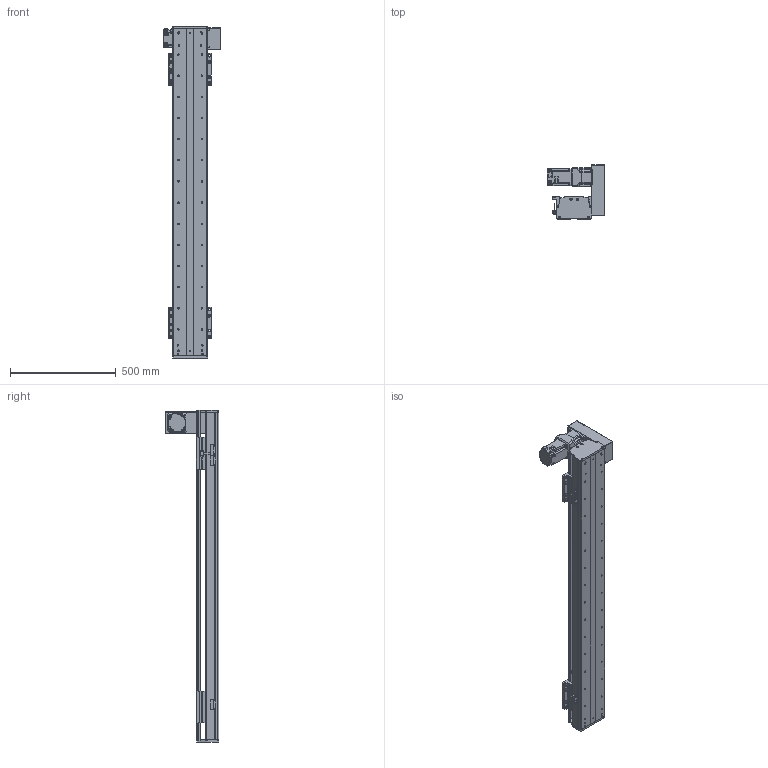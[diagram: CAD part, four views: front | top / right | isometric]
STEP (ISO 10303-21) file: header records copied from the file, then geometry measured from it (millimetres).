
FILE_DESCRIPTION(/* description */ (''),/* implementation_level */ '2;1');
FILE_NAME(/* name */ 'C:\Users\PC\Desktop\3D도면\STEP\새 폴더\DSB165-UR7G-W1200-L.stp',/* time_stamp */ '2018-06-25T15:18:22+09:00',/* author */ ('PC'),/* organization */ (''),/* preprocessor_version */ 'ST-DEVELOPER v16.5',/* originating_system */ 'Autodesk Inventor 2017',/* authorisation */ '');
FILE_SCHEMA (('AUTOMOTIVE_DESIGN { 1 0 10303 214 3 1 1 }'));
Length unit declared in the file: millimetre
Products named in the file (12): DSB165-UL7G-W1200-R_MIR; DSB165-BASE-L_MIR; hg-kr73__MIR; ab0901-p0401300102_MIR; 11-DSB165 BELT COVER_MIR; 12-DSB165-REAR COVER_MIR; 14-DSB165-FRONT COVER_MIR; DSB165-UP COVER_MIR; DSR165-SENSOR DOG_MIR; pm-y65_step_MIR; SENSOR BRACKET(EE-SX674A)_MIR; DSB165-TABLE(MSB20S)_MIR
Assembly tree (16 placements, depth 2):
  DSB165-UL7G-W1200-R_MIR
    DSB165-BASE-L_MIR
    hg-kr73__MIR
    ab0901-p0401300102_MIR
    11-DSB165 BELT COVER_MIR
    12-DSB165-REAR COVER_MIR
    14-DSB165-FRONT COVER_MIR
    DSB165-UP COVER_MIR
    DSR165-SENSOR DOG_MIR
    pm-y65_step_MIR  x3
    SENSOR BRACKET(EE-SX674A)_MIR  x3
    DSB165-TABLE(MSB20S)_MIR  x2
Bounding box: 270 x 254 x 1570 mm (x, y, z)
Volume: 9781234.1 mm3; surface area: 2270205.1 mm2
Topology: 17 solids, 17 shells, 1677 faces, 4504 edges, 2966 vertices
Faces by surface type: plane 921, cylinder 624, cone 120, sphere 8, torus 4
Full cylindrical faces by diameter (mm): 2.459 x20, 3.5 x6, 4.134 x42, 4.5 x18, 5 x27, 5.5 x36, 5.9 x4, 6 x4, 6.6 x14, 6.647 x48, 6.8 x1, 7 x4, 7.6 x4, 8.4 x1, 8.5 x24, 8.7 x1, 9.5 x32, 11 x6, 14 x16, 19 x1, 22 x1, 24 x1, 25 x1, 28 x1, 67 x1, 70 x2, 80 x1
Entity records: 36340 total; most frequent: DIRECTION 6298, CARTESIAN_POINT 6099, ORIENTED_EDGE 5554, EDGE_CURVE 2777, AXIS2_PLACEMENT_3D 2319, VERTEX_POINT 1982, EDGE_LOOP 1751, LINE 1660
